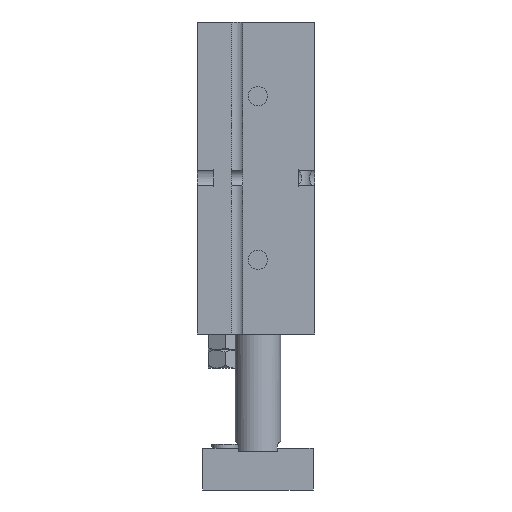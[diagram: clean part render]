
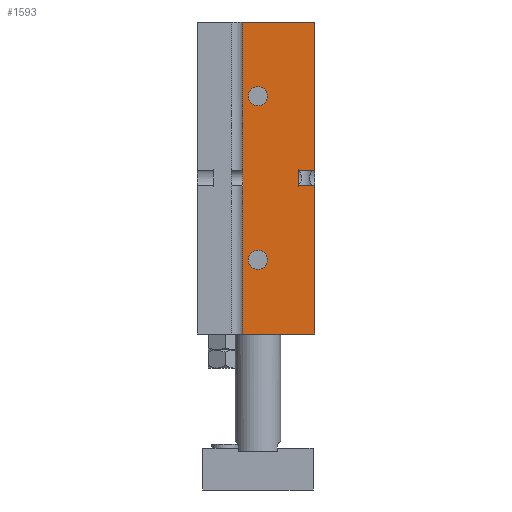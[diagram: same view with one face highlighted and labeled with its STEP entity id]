
A CAD part, front view. The second image highlights one B-rep face of the part: STEP entity #1593.
In plain terms, the highlighted planar face has unit normal (0, -1, 0).
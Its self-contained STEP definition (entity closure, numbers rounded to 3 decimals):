
#1133=CARTESIAN_POINT('',(-4.,-36.5,123.0));
#1134=VERTEX_POINT('',#1133);
#1142=CARTESIAN_POINT('',(-4.,-36.5,41.));
#1143=VERTEX_POINT('',#1142);
#1150=CARTESIAN_POINT('',(-4.,-36.5,123.0));
#1151=DIRECTION('',(0.0,0.0,-1.0));
#1152=VECTOR('',#1151,82.0);
#1153=LINE('',#1150,#1152);
#1154=EDGE_CURVE('',#1134,#1143,#1153,.T.);
#1324=CARTESIAN_POINT('',(15.0,-36.5,123.0));
#1325=VERTEX_POINT('',#1324);
#1326=CARTESIAN_POINT('',(15.0,-36.5,123.0));
#1327=DIRECTION('',(-1.0,0.0,0.0));
#1328=VECTOR('',#1327,19.);
#1329=LINE('',#1326,#1328);
#1330=EDGE_CURVE('',#1325,#1134,#1329,.T.);
#1516=CARTESIAN_POINT('',(15.0,-36.5,41.0));
#1517=DIRECTION('',(0.0,-1.0,0.0));
#1518=DIRECTION('',(0.0,0.0,-1.0));
#1519=AXIS2_PLACEMENT_3D('',#1516,#1517,#1518);
#1520=PLANE('',#1519);
#1521=ORIENTED_EDGE('',*,*,#1154,.T.);
#1522=CARTESIAN_POINT('',(15.0,-36.5,41.0));
#1523=VERTEX_POINT('',#1522);
#1524=CARTESIAN_POINT('',(15.0,-36.5,41.0));
#1525=DIRECTION('',(-1.0,0.0,0.0));
#1526=VECTOR('',#1525,19.);
#1527=LINE('',#1524,#1526);
#1528=EDGE_CURVE('',#1523,#1143,#1527,.T.);
#1529=ORIENTED_EDGE('',*,*,#1528,.F.);
#1530=CARTESIAN_POINT('',(15.0,-36.5,80.064));
#1531=VERTEX_POINT('',#1530);
#1532=CARTESIAN_POINT('',(15.0,-36.5,41.0));
#1533=DIRECTION('',(0.0,0.0,1.0));
#1534=VECTOR('',#1533,39.064);
#1535=LINE('',#1532,#1534);
#1536=EDGE_CURVE('',#1523,#1531,#1535,.T.);
#1537=ORIENTED_EDGE('',*,*,#1536,.T.);
#1538=CARTESIAN_POINT('',(10.6,-36.5,80.064));
#1539=VERTEX_POINT('',#1538);
#1540=CARTESIAN_POINT('',(15.0,-36.5,80.064));
#1541=DIRECTION('',(-1.0,0.0,0.0));
#1542=VECTOR('',#1541,4.4);
#1543=LINE('',#1540,#1542);
#1544=EDGE_CURVE('',#1531,#1539,#1543,.T.);
#1545=ORIENTED_EDGE('',*,*,#1544,.T.);
#1546=CARTESIAN_POINT('',(10.6,-36.5,83.936));
#1547=VERTEX_POINT('',#1546);
#1548=CARTESIAN_POINT('',(10.6,-36.5,80.064));
#1549=DIRECTION('',(0.0,0.0,1.0));
#1550=VECTOR('',#1549,3.873);
#1551=LINE('',#1548,#1550);
#1552=EDGE_CURVE('',#1539,#1547,#1551,.T.);
#1553=ORIENTED_EDGE('',*,*,#1552,.T.);
#1554=CARTESIAN_POINT('',(15.0,-36.5,83.936));
#1555=VERTEX_POINT('',#1554);
#1556=CARTESIAN_POINT('',(10.6,-36.5,83.936));
#1557=DIRECTION('',(1.0,0.0,0.0));
#1558=VECTOR('',#1557,4.4);
#1559=LINE('',#1556,#1558);
#1560=EDGE_CURVE('',#1547,#1555,#1559,.T.);
#1561=ORIENTED_EDGE('',*,*,#1560,.T.);
#1562=CARTESIAN_POINT('',(15.0,-36.5,83.936));
#1563=DIRECTION('',(0.0,0.0,1.0));
#1564=VECTOR('',#1563,39.064);
#1565=LINE('',#1562,#1564);
#1566=EDGE_CURVE('',#1555,#1325,#1565,.T.);
#1567=ORIENTED_EDGE('',*,*,#1566,.T.);
#1568=ORIENTED_EDGE('',*,*,#1330,.T.);
#1569=EDGE_LOOP('',(#1521,#1529,#1537,#1545,#1553,#1561,#1567,#1568));
#1570=FACE_OUTER_BOUND('',#1569,.T.);
#1571=CARTESIAN_POINT('',(2.5,-36.5,103.5));
#1572=VERTEX_POINT('',#1571);
#1573=CARTESIAN_POINT('',(0.0,-36.5,103.5));
#1574=DIRECTION('',(0.0,1.0,0.0));
#1575=DIRECTION('',(-1.0,0.0,0.0));
#1576=AXIS2_PLACEMENT_3D('',#1573,#1574,#1575);
#1577=CIRCLE('',#1576,2.5);
#1578=EDGE_CURVE('',#1572,#1572,#1577,.T.);
#1579=ORIENTED_EDGE('',*,*,#1578,.T.);
#1580=EDGE_LOOP('',(#1579));
#1581=FACE_BOUND('',#1580,.T.);
#1582=CARTESIAN_POINT('',(2.5,-36.5,60.5));
#1583=VERTEX_POINT('',#1582);
#1584=CARTESIAN_POINT('',(0.0,-36.5,60.5));
#1585=DIRECTION('',(0.0,1.0,0.0));
#1586=DIRECTION('',(-1.0,0.0,0.0));
#1587=AXIS2_PLACEMENT_3D('',#1584,#1585,#1586);
#1588=CIRCLE('',#1587,2.5);
#1589=EDGE_CURVE('',#1583,#1583,#1588,.T.);
#1590=ORIENTED_EDGE('',*,*,#1589,.T.);
#1591=EDGE_LOOP('',(#1590));
#1592=FACE_BOUND('',#1591,.T.);
#1593=ADVANCED_FACE('',(#1570,#1581,#1592),#1520,.T.);
